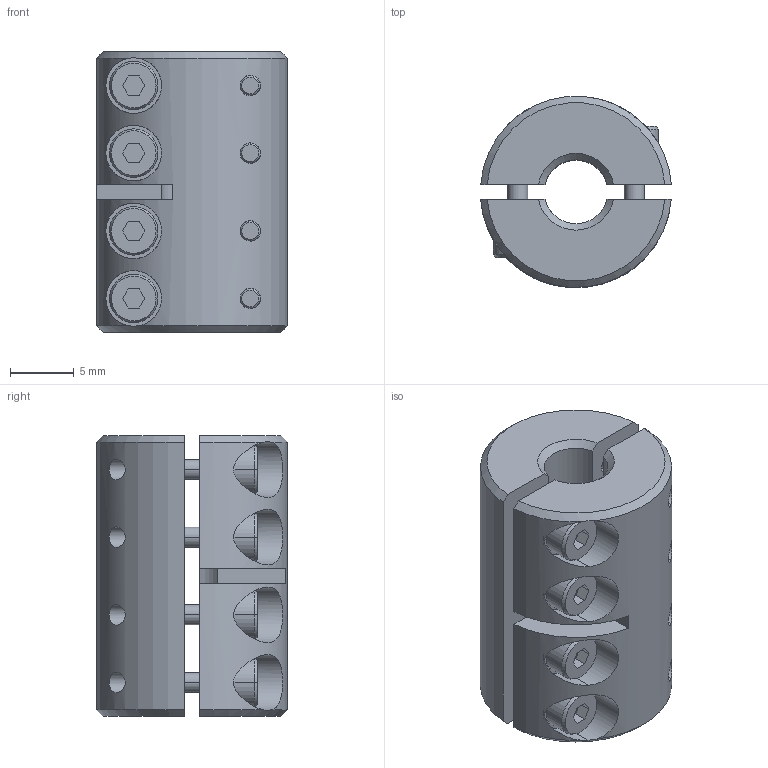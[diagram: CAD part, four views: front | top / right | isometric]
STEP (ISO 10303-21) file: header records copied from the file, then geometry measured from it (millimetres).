
FILE_DESCRIPTION((''),'2;1');
FILE_NAME('MSPX-5-5-F','2016-09-08T',('SYSTEM'),(''),'PRO/ENGINEER BY PARAMETRIC TECHNOLOGY CORPORATION, 2015110','PRO/ENGINEER BY PARAMETRIC TECHNOLOGY CORPORATION, 2015110','');
FILE_SCHEMA(('AUTOMOTIVE_DESIGN { 1 0 10303 214 1 1 1 1 }'));
Length unit declared in the file: millimetre
Products named in the file (1): MSPX-5-5-F
Bounding box: 14.95 x 14.97 x 22 mm (x, y, z)
Volume: 2883.3 mm3; surface area: 3067.9 mm2
Topology: 2 solids, 2 shells, 228 faces, 532 edges, 344 vertices
Faces by surface type: plane 104, cylinder 84, cone 40
Entity records: 8719 total; most frequent: CARTESIAN_POINT 1744, DIRECTION 1120, ORIENTED_EDGE 1064, EDGE_CURVE 532, AXIS2_PLACEMENT_3D 416, VERTEX_POINT 344, VECTOR 288, LINE 288
